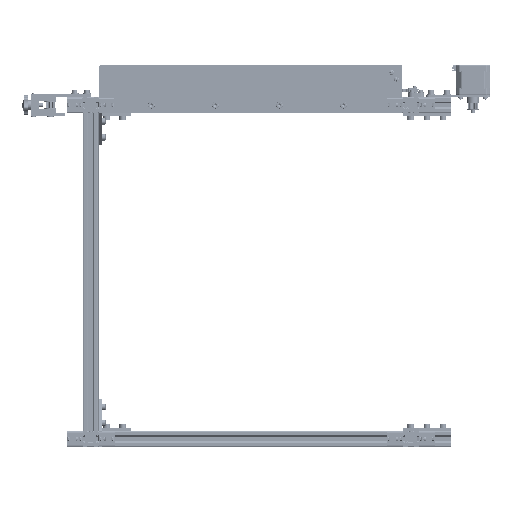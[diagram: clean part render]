
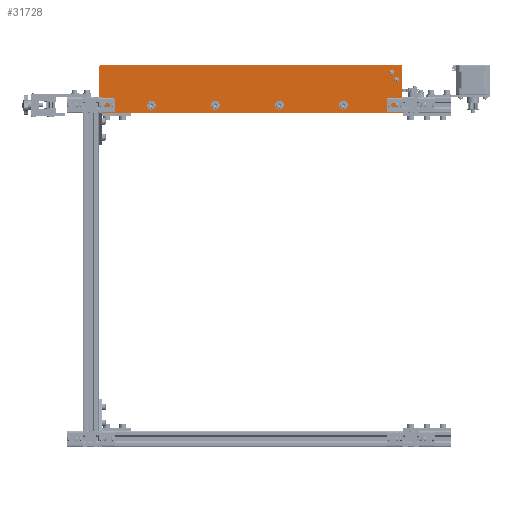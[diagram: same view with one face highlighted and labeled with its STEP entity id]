
A CAD part, front view. The second image highlights one B-rep face of the part: STEP entity #31728.
In plain terms, the highlighted planar face has unit normal (0, -1, 0) as drawn and (1, 0, 0) by its records, which use the part's own axes.
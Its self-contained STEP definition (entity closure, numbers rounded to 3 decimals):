
#1641=FACE_BOUND('',#5282,.T.);
#1642=FACE_BOUND('',#5283,.T.);
#1643=FACE_BOUND('',#5284,.T.);
#1644=FACE_BOUND('',#5285,.T.);
#1645=FACE_BOUND('',#5286,.T.);
#1646=FACE_BOUND('',#5287,.T.);
#2349=PLANE('',#34613);
#3432=FACE_OUTER_BOUND('',#5281,.T.);
#5281=EDGE_LOOP('',(#23669,#23670,#23671,#23672,#23673,#23674,#23675,#23676));
#5282=EDGE_LOOP('',(#23677));
#5283=EDGE_LOOP('',(#23678));
#5284=EDGE_LOOP('',(#23679));
#5285=EDGE_LOOP('',(#23680));
#5286=EDGE_LOOP('',(#23681));
#5287=EDGE_LOOP('',(#23682));
#7755=LINE('',#49360,#10513);
#7759=LINE('',#49372,#10517);
#7763=LINE('',#49384,#10521);
#7767=LINE('',#49396,#10525);
#10513=VECTOR('',#39564,10.);
#10517=VECTOR('',#39576,10.);
#10521=VECTOR('',#39588,10.);
#10525=VECTOR('',#39600,10.);
#12482=CIRCLE('',#34581,1.75);
#12484=CIRCLE('',#34584,1.75);
#12485=CIRCLE('',#34586,2.75);
#12487=CIRCLE('',#34589,2.75);
#12489=CIRCLE('',#34592,2.75);
#12491=CIRCLE('',#34595,2.75);
#12494=CIRCLE('',#34600,2.);
#12496=CIRCLE('',#34604,2.);
#12498=CIRCLE('',#34608,2.);
#12500=CIRCLE('',#34612,2.);
#14403=VERTEX_POINT('',#49320);
#14405=VERTEX_POINT('',#49326);
#14406=VERTEX_POINT('',#49330);
#14408=VERTEX_POINT('',#49336);
#14410=VERTEX_POINT('',#49342);
#14412=VERTEX_POINT('',#49348);
#14416=VERTEX_POINT('',#49357);
#14417=VERTEX_POINT('',#49359);
#14419=VERTEX_POINT('',#49365);
#14421=VERTEX_POINT('',#49371);
#14423=VERTEX_POINT('',#49377);
#14425=VERTEX_POINT('',#49383);
#14427=VERTEX_POINT('',#49389);
#14429=VERTEX_POINT('',#49395);
#17836=EDGE_CURVE('',#14403,#14403,#12482,.T.);
#17839=EDGE_CURVE('',#14405,#14405,#12484,.T.);
#17840=EDGE_CURVE('',#14406,#14406,#12485,.T.);
#17843=EDGE_CURVE('',#14408,#14408,#12487,.T.);
#17846=EDGE_CURVE('',#14410,#14410,#12489,.T.);
#17849=EDGE_CURVE('',#14412,#14412,#12491,.T.);
#17854=EDGE_CURVE('',#14417,#14416,#7755,.T.);
#17857=EDGE_CURVE('',#14419,#14417,#12494,.T.);
#17860=EDGE_CURVE('',#14421,#14419,#7759,.T.);
#17863=EDGE_CURVE('',#14423,#14421,#12496,.T.);
#17866=EDGE_CURVE('',#14425,#14423,#7763,.T.);
#17869=EDGE_CURVE('',#14427,#14425,#12498,.T.);
#17872=EDGE_CURVE('',#14429,#14427,#7767,.T.);
#17875=EDGE_CURVE('',#14416,#14429,#12500,.T.);
#23669=ORIENTED_EDGE('',*,*,#17875,.T.);
#23670=ORIENTED_EDGE('',*,*,#17872,.T.);
#23671=ORIENTED_EDGE('',*,*,#17869,.T.);
#23672=ORIENTED_EDGE('',*,*,#17866,.T.);
#23673=ORIENTED_EDGE('',*,*,#17863,.T.);
#23674=ORIENTED_EDGE('',*,*,#17860,.T.);
#23675=ORIENTED_EDGE('',*,*,#17857,.T.);
#23676=ORIENTED_EDGE('',*,*,#17854,.T.);
#23677=ORIENTED_EDGE('',*,*,#17836,.T.);
#23678=ORIENTED_EDGE('',*,*,#17839,.T.);
#23679=ORIENTED_EDGE('',*,*,#17849,.T.);
#23680=ORIENTED_EDGE('',*,*,#17846,.T.);
#23681=ORIENTED_EDGE('',*,*,#17843,.T.);
#23682=ORIENTED_EDGE('',*,*,#17840,.T.);
#31728=ADVANCED_FACE('',(#3432,#1641,#1642,#1643,#1644,#1645,#1646),#2349,
 .T.);
#34581=AXIS2_PLACEMENT_3D('',#49322,#39523,#39524);
#34584=AXIS2_PLACEMENT_3D('',#49328,#39530,#39531);
#34586=AXIS2_PLACEMENT_3D('',#49331,#39534,#39535);
#34589=AXIS2_PLACEMENT_3D('',#49337,#39541,#39542);
#34592=AXIS2_PLACEMENT_3D('',#49343,#39548,#39549);
#34595=AXIS2_PLACEMENT_3D('',#49349,#39555,#39556);
#34600=AXIS2_PLACEMENT_3D('',#49366,#39570,#39571);
#34604=AXIS2_PLACEMENT_3D('',#49378,#39582,#39583);
#34608=AXIS2_PLACEMENT_3D('',#49390,#39594,#39595);
#34612=AXIS2_PLACEMENT_3D('',#49400,#39606,#39607);
#34613=AXIS2_PLACEMENT_3D('',#49401,#39608,#39609);
#39523=DIRECTION('center_axis',(-1.,0.,0.));
#39524=DIRECTION('ref_axis',(0.,0.,1.));
#39530=DIRECTION('center_axis',(-1.,0.,0.));
#39531=DIRECTION('ref_axis',(0.,0.,1.));
#39534=DIRECTION('center_axis',(-1.,0.,0.));
#39535=DIRECTION('ref_axis',(0.,-1.,0.));
#39541=DIRECTION('center_axis',(-1.,0.,0.));
#39542=DIRECTION('ref_axis',(0.,-1.,0.));
#39548=DIRECTION('center_axis',(-1.,0.,0.));
#39549=DIRECTION('ref_axis',(0.,-1.,0.));
#39555=DIRECTION('center_axis',(-1.,0.,0.));
#39556=DIRECTION('ref_axis',(0.,-1.,0.));
#39564=DIRECTION('',(0.,-1.,0.));
#39570=DIRECTION('center_axis',(1.,0.,0.));
#39571=DIRECTION('ref_axis',(0.,1.,0.));
#39576=DIRECTION('',(0.,0.,1.));
#39582=DIRECTION('center_axis',(1.,0.,0.));
#39583=DIRECTION('ref_axis',(0.,0.,-1.));
#39588=DIRECTION('',(0.,1.,0.));
#39594=DIRECTION('center_axis',(1.,0.,0.));
#39595=DIRECTION('ref_axis',(0.,-1.,0.));
#39600=DIRECTION('',(0.,0.,-1.));
#39606=DIRECTION('center_axis',(1.,0.,0.));
#39607=DIRECTION('ref_axis',(0.,0.,1.));
#39608=DIRECTION('center_axis',(1.,0.,0.));
#39609=DIRECTION('ref_axis',(0.,0.,-1.));
#49320=CARTESIAN_POINT('',(5.,50.655,-366.75));
#49322=CARTESIAN_POINT('Origin',(5.,50.655,-365.));
#49326=CARTESIAN_POINT('',(5.,42.155,-372.75));
#49328=CARTESIAN_POINT('Origin',(5.,42.155,-371.));
#49330=CARTESIAN_POINT('',(5.,12.75,-305.));
#49331=CARTESIAN_POINT('Origin',(5.,10.,-305.));
#49336=CARTESIAN_POINT('',(5.,12.75,-225.));
#49337=CARTESIAN_POINT('Origin',(5.,10.,-225.));
#49342=CARTESIAN_POINT('',(5.,12.75,-145.));
#49343=CARTESIAN_POINT('Origin',(5.,10.,-145.));
#49348=CARTESIAN_POINT('',(5.,12.75,-65.));
#49349=CARTESIAN_POINT('Origin',(5.,10.,-65.));
#49357=CARTESIAN_POINT('',(5.,2.,0.));
#49359=CARTESIAN_POINT('',(5.,58.325,0.));
#49360=CARTESIAN_POINT('',(5.,58.325,0.));
#49365=CARTESIAN_POINT('',(5.,60.325,-2.));
#49366=CARTESIAN_POINT('Origin',(5.,58.325,-2.));
#49371=CARTESIAN_POINT('',(5.,60.325,-376.));
#49372=CARTESIAN_POINT('',(5.,60.325,-376.));
#49377=CARTESIAN_POINT('',(5.,58.325,-378.));
#49378=CARTESIAN_POINT('Origin',(5.,58.325,-376.));
#49383=CARTESIAN_POINT('',(5.,2.,-378.));
#49384=CARTESIAN_POINT('',(5.,2.,-378.));
#49389=CARTESIAN_POINT('',(5.,0.,-376.));
#49390=CARTESIAN_POINT('Origin',(5.,2.,-376.));
#49395=CARTESIAN_POINT('',(5.,0.,-2.));
#49396=CARTESIAN_POINT('',(5.,0.,-2.));
#49400=CARTESIAN_POINT('Origin',(5.,2.,-2.));
#49401=CARTESIAN_POINT('Origin',(5.,30.163,-189.));
